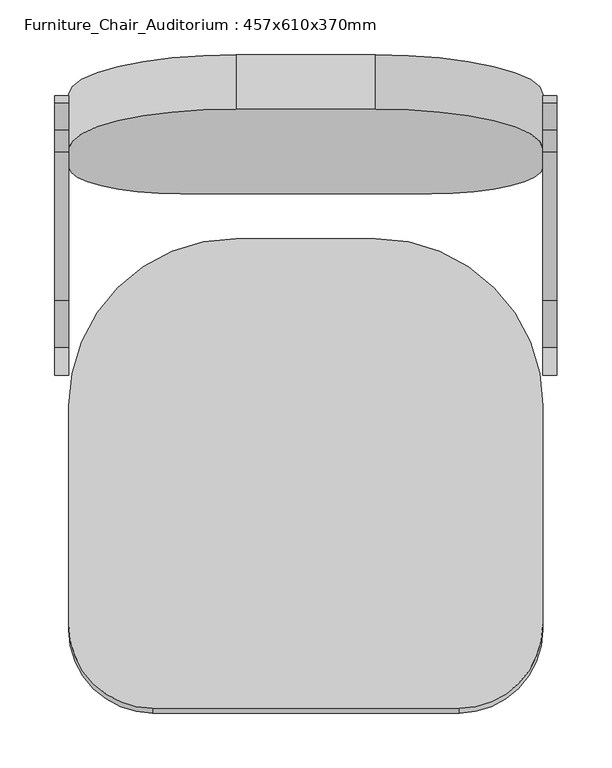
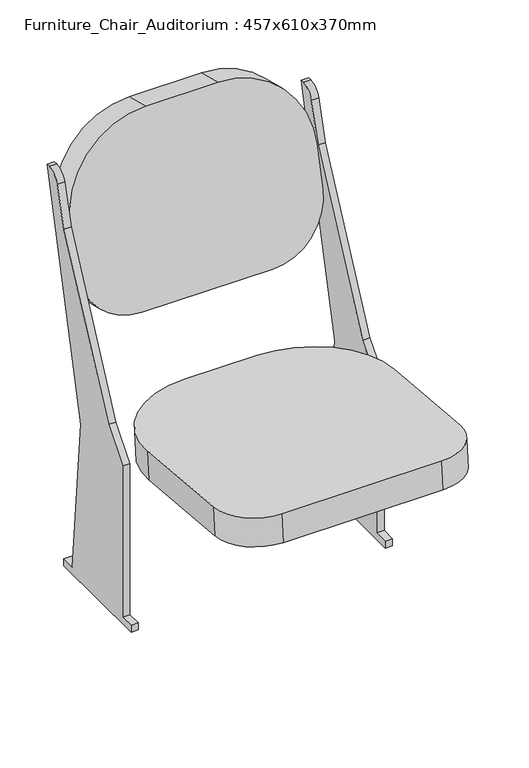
"""IFC4 building model written with IfcOpenShell, lengths in millimetres: furniture geometry, Furniture_Chair_Auditorium : 457x610x370mm."""

import ifcopenshell
import ifcopenshell.guid

model = None  # the IFC model being written
_history = None  # IfcOwnerHistory: only IFC2X3 demands one
_inside = {}  # id of a spatial element -> (the spatial element, [elements in it])
_under = {}  # id of a project, library or spatial element -> (it, [spatial elements below it])
_declared = {}  # id of a project -> (the project, [libraries it declares])
_typed = {}  # id of a type object -> (the type object, [elements of that type])
_made_of = {}  # id of a material, layer set ... -> (it, [elements and type objects made of it])


def new_model(schema):
    """Start an empty IFC model of exactly this schema.

    Asked for "IFC4X3", IfcOpenShell would pick the latest addendum, in which some entities
    have other attributes; the version numbers below select the first issue.
    IFC2X3 requires an IfcOwnerHistory on every rooted entity: one is made here for all.
    """
    global model, _history
    if schema == "IFC4X3":
        model = ifcopenshell.file(schema_version=(4, 3, 0, 0))
    else:
        model = ifcopenshell.file(schema=schema)
    _inside.clear()
    _under.clear()
    _declared.clear()
    _typed.clear()
    _made_of.clear()
    _history = None
    if model.schema == "IFC2X3":
        org = make("IfcOrganization", Name="unknown")
        user = make(
            "IfcPersonAndOrganization",
            ThePerson=make("IfcPerson", FamilyName="unknown"),
            TheOrganization=org,
        )
        app = make(
            "IfcApplication",
            ApplicationDeveloper=org,
            Version="unknown",
            ApplicationFullName="unknown",
            ApplicationIdentifier="unknown",
        )
        _history = make(
            "IfcOwnerHistory",
            OwningUser=user,
            OwningApplication=app,
            ChangeAction="ADDED",
            CreationDate=0,
        )
    return model


def make(cls, **values):
    """One entity of the class cls with the attributes given. An attribute that is None is left unset."""
    return model.create_entity(
        cls, **{name: value for name, value in values.items() if value is not None}
    )


def rooted(cls, **values):
    """An entity with a GlobalId (a new one), such as an element, a storey or a relation."""
    return make(cls, GlobalId=ifcopenshell.guid.new(), OwnerHistory=_history, **values)


def si_unit(unit_type, name, prefix=None):
    """IfcSIUnit, for example si_unit("LENGTHUNIT", "METRE", prefix="MILLI")."""
    return make("IfcSIUnit", UnitType=unit_type, Prefix=prefix, Name=name)


def assignment(units):
    """IfcUnitAssignment: the units of a project."""
    return None if units is None else make("IfcUnitAssignment", Units=units)


def point(xyz):
    """IfcCartesianPoint."""
    return None if xyz is None else make("IfcCartesianPoint", Coordinates=xyz)


def direction(xyz):
    """IfcDirection."""
    return None if xyz is None else make("IfcDirection", DirectionRatios=xyz)


def frame(location, z_axis=None, x_axis=None):
    """IfcAxis2Placement3D, a coordinate frame: its origin and axes. An axis left out is left unset."""
    return make(
        "IfcAxis2Placement3D",
        Location=point(location),
        Axis=direction(z_axis),
        RefDirection=direction(x_axis),
    )


def frame_2d(location, x_axis=None):
    """IfcAxis2Placement2D, a coordinate frame in the plane: its origin and x axis."""
    return make(
        "IfcAxis2Placement2D", Location=point(location), RefDirection=direction(x_axis)
    )


def origin():
    """The frame at (0, 0, 0) with its axes left unset."""
    return frame((0.0, 0.0, 0.0))


def place(relative_to, where):
    """IfcLocalPlacement: puts the frame where relative to a parent placement (None: the world)."""
    return make(
        "IfcLocalPlacement", PlacementRelTo=relative_to, RelativePlacement=where
    )


def context(
    kind, dimensions, precision=None, world=None, true_north=None, identifier=None
):
    """IfcGeometricRepresentationContext, for example the 3D "Model" context."""
    return make(
        "IfcGeometricRepresentationContext",
        ContextIdentifier=identifier,
        ContextType=kind,
        CoordinateSpaceDimension=dimensions,
        Precision=precision,
        WorldCoordinateSystem=world,
        TrueNorth=true_north,
    )


def project(units=None, contexts=None):
    """IfcProject with its units and contexts."""
    return rooted(
        "IfcProject",
        Name="project",
        RepresentationContexts=contexts,
        UnitsInContext=assignment(units),
    )


def spatial(cls, under=None, at=None, **own):
    """A site, building, storey or space (cls), placed at a placement, below another one or the project."""
    s = rooted(cls, ObjectPlacement=at, **own)
    if under is not None:
        _under.setdefault(under.id(), (under, []))[1].append(s)
    return s


def polyline(points):
    """IfcPolyline through the points."""
    return make("IfcPolyline", Points=[point(p) for p in points])


def circle_curve(where, radius):
    """IfcCircle in the frame where."""
    return make("IfcCircle", Position=where, Radius=radius)


def trimmed(basis, trim1, trim2, sense, master):
    """IfcTrimmedCurve: the piece of a basis curve between two trims."""
    return make(
        "IfcTrimmedCurve",
        BasisCurve=basis,
        Trim1=trim1,
        Trim2=trim2,
        SenseAgreement=sense,
        MasterRepresentation=master,
    )


def segment(curve, same_sense, transition):
    """IfcCompositeCurveSegment."""
    return make(
        "IfcCompositeCurveSegment",
        Transition=transition,
        SameSense=same_sense,
        ParentCurve=curve,
    )


def composite_curve(segments, self_intersect=None):
    """IfcCompositeCurve: segments joined end to end."""
    return make("IfcCompositeCurve", Segments=segments, SelfIntersect=self_intersect)


def outline(outer, holes=None, kind="AREA"):
    """IfcArbitraryClosedProfileDef: a profile drawn as a closed curve; with holes, ...WithVoids."""
    if holes is None:
        return make("IfcArbitraryClosedProfileDef", ProfileType=kind, OuterCurve=outer)
    return make(
        "IfcArbitraryProfileDefWithVoids",
        ProfileType=kind,
        OuterCurve=outer,
        InnerCurves=holes,
    )


def extrude(swept, where, along, depth):
    """IfcExtrudedAreaSolid: the profile swept, set in the frame where, extruded along a direction by depth."""
    return make(
        "IfcExtrudedAreaSolid",
        SweptArea=swept,
        Position=where,
        ExtrudedDirection=direction(along),
        Depth=depth,
    )


def shape(context_of_items, identifier, shape_type, items):
    """IfcShapeRepresentation: the items that make up one representation, for example the "Body"."""
    return make(
        "IfcShapeRepresentation",
        ContextOfItems=context_of_items,
        RepresentationIdentifier=identifier,
        RepresentationType=shape_type,
        Items=items,
    )


def source(mapping_origin, context_of_items, identifier, shape_type, items):
    """IfcRepresentationMap: a shape defined once, which mapped items show again and again."""
    return make(
        "IfcRepresentationMap",
        MappingOrigin=mapping_origin,
        MappedRepresentation=shape(context_of_items, identifier, shape_type, items),
    )


def transform(
    local_origin,
    x_axis=None,
    y_axis=None,
    z_axis=None,
    scale=None,
    scale2=None,
    scale3=None,
    uniform=True,
):
    """IfcCartesianTransformationOperator3D, or its non-uniform kind. x_axis, y_axis, z_axis: its Axis1, 2, 3."""
    if uniform:
        return make(
            "IfcCartesianTransformationOperator3D",
            Axis1=direction(x_axis),
            Axis2=direction(y_axis),
            LocalOrigin=point(local_origin),
            Scale=scale,
            Axis3=direction(z_axis),
        )
    return make(
        "IfcCartesianTransformationOperator3DnonUniform",
        Axis1=direction(x_axis),
        Axis2=direction(y_axis),
        LocalOrigin=point(local_origin),
        Scale=scale,
        Axis3=direction(z_axis),
        Scale2=scale2,
        Scale3=scale3,
    )


def mapped(mapping_source, mapping_target):
    """IfcMappedItem: shows the shape of a source again, moved by a transform."""
    return make(
        "IfcMappedItem", MappingSource=mapping_source, MappingTarget=mapping_target
    )


def made_of(thing, what):
    """Note that an element or type object is made of a material, layer set ...; save() writes the relation."""
    if what is not None:
        _made_of.setdefault(what.id(), (what, []))[1].append(thing)
    return thing


def element(
    cls,
    number,
    at=None,
    inside=None,
    cuts=None,
    type_object=None,
    material=None,
    context=None,
    identifier="Body",
    shape_type=None,
    held_by="IfcProductDefinitionShape",
    body=None,
    shapes=None,
    **own,
):
    """One element of the class cls, such as IfcWall. Its Tag is "e" and its number.

    at: its placement. inside: the storey or other place that contains it. cuts: it is an
    opening in that element (IfcRelVoidsElement). A single representation is given by context,
    identifier, shape_type and body (its items); several are given by shapes. held_by: the class
    of the entity that holds the representations. save() writes the other relations.
    """
    e = rooted(cls, Tag="e%d" % number, ObjectPlacement=at, **own)
    if body is not None:
        shapes = [shape(context, identifier, shape_type, body)]
    if shapes is not None:
        e.Representation = make(held_by, Representations=shapes)
    if inside is not None:
        _inside.setdefault(inside.id(), (inside, []))[1].append(e)
    if cuts is not None:
        rooted(
            "IfcRelVoidsElement", RelatingBuildingElement=cuts, RelatedOpeningElement=e
        )
    if type_object is not None:
        _typed.setdefault(type_object.id(), (type_object, []))[1].append(e)
    return made_of(e, material)


def aggregate(whole, parts):
    """IfcRelAggregates: a whole, such as a stair, and the parts it consists of."""
    return rooted("IfcRelAggregates", RelatingObject=whole, RelatedObjects=parts)


def save(model, path):
    """Write the relations noted so far, then the file.

    IfcRelAggregates (storeys below a building ...), IfcRelContainedInSpatialStructure (elements
    in a storey), IfcRelDefinesByType, IfcRelAssociatesMaterial and IfcRelDeclares: one each for
    every whole, place, type object, material and project.
    """
    for whole, parts in _under.values():
        aggregate(whole, parts)
    for where, things in _inside.values():
        rooted(
            "IfcRelContainedInSpatialStructure",
            RelatedElements=things,
            RelatingStructure=where,
        )
    for kind, things in _typed.values():
        rooted("IfcRelDefinesByType", RelatedObjects=things, RelatingType=kind)
    for what, things in _made_of.values():
        rooted("IfcRelAssociatesMaterial", RelatedObjects=things, RelatingMaterial=what)
    for by, libraries in _declared.values():
        rooted("IfcRelDeclares", RelatingContext=by, RelatedDefinitions=libraries)
    model.write(path)


def furniture_chair_auditorium_457x610x370mm_2ec127df(model_context):
    return source(origin(), model_context, "Body", "SweptSolid", [
        extrude(outline(composite_curve([segment(trimmed(circle_curve(frame_2d((0.0, 152.4)), 152.4), [point((0.0, 0.0))], [point((-152.4, 152.4))], False, "CARTESIAN"), True, "CONTINUOUS"), segment(polyline([(-152.4, 152.4), (-152.4, 224.0588601)]), True, "CONTINUOUS"), segment(trimmed(circle_curve(frame_2d((-50.8, 224.0588601)), 101.6), [point((-152.4, 224.0588601))], [point((-50.8, 325.6588601))], False, "CARTESIAN"), True, "CONTINUOUS"), segment(polyline([(-50.8, 325.6588601), (177.8, 325.6588601)]), True, "CONTINUOUS"), segment(trimmed(circle_curve(frame_2d((177.8, 224.0588601)), 101.6), [point((177.8, 325.6588601))], [point((279.4, 224.0588601))], False, "CARTESIAN"), True, "CONTINUOUS"), segment(polyline([(279.4, 224.0588601), (279.4, 152.4)]), True, "CONTINUOUS"), segment(trimmed(circle_curve(frame_2d((127.0, 152.4)), 152.4), [point((279.4, 152.4))], [point((127.0, 0.0))], False, "CARTESIAN"), True, "CONTINUOUS"), segment(polyline([(127.0, 0.0), (0.0, 0.0)]), True, "CONTINUOUS")], self_intersect=False)), frame((224.2278689, 101.3396919, 755.9484479), z_axis=(0.0, -0.9717404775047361, 0.23605178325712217), x_axis=(-1.0, 0.0, 0.0)), (0.0, 0.0, 1.0), 50.8),
        extrude(outline(composite_curve([segment(polyline([(0.0, 0.0), (-279.4, 0.0)]), True, "CONTINUOUS"), segment(trimmed(circle_curve(frame_2d((-279.4, 76.2)), 76.2), [point((-279.4, 0.0))], [point((-355.6, 76.2))], False, "CARTESIAN"), True, "CONTINUOUS"), segment(polyline([(-355.6, 76.2), (-355.6, 276.4123505)]), True, "CONTINUOUS"), segment(trimmed(circle_curve(frame_2d((-203.2, 276.4123505)), 152.4), [point((-355.6, 276.4123505))], [point((-203.2, 428.8123506))], False, "CARTESIAN"), True, "CONTINUOUS"), segment(polyline([(-203.2, 428.8123506), (-76.2, 428.8123506)]), True, "CONTINUOUS"), segment(trimmed(circle_curve(frame_2d((-76.2, 276.4123505)), 152.4), [point((-76.2, 428.8123506))], [point((76.2, 276.4123505))], False, "CARTESIAN"), True, "CONTINUOUS"), segment(polyline([(76.2, 276.4123505), (76.2, 76.2)]), True, "CONTINUOUS"), segment(trimmed(circle_curve(frame_2d((0.0, 76.2)), 76.2), [point((76.2, 76.2))], [point((0.0, 0.0))], False, "CARTESIAN"), True, "CONTINUOUS")], self_intersect=False)), frame((300.4278689, -497.5245173, 321.2380213), z_axis=(0.0, 0.08715574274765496, 0.9961946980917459), x_axis=(1.0, 0.0, 0.0)), (0.0, 0.0, 1.0), 50.8),
        extrude(outline(composite_curve([segment(polyline([(13.3245902, 0.0), (-189.8754098, 0.0), (-189.8754098, 12.7), (-164.4754098, 12.7), (-164.4754098, 292.1), (-121.8491486, 342.9), (13.3245902, 622.3), (33.4611378, 692.7779166)]), True, "CONTINUOUS"), segment(trimmed(circle_curve(frame_2d((57.883846, 685.8)), 25.4), [point((33.4611378, 692.7779166))], [point((57.883846, 711.2))], False, "CARTESIAN"), True, "CONTINUOUS"), segment(polyline([(57.883846, 711.2), (64.1245902, 711.2), (-37.4754098, 292.1), (-12.0754098, 12.7), (13.3245902, 12.7), (13.3245902, 0.0)]), True, "CONTINUOUS")], self_intersect=False)), frame((-67.8721311, 0.0, 0.0), z_axis=(1.0, 0.0, 0.0), x_axis=(0.0, 1.0, 0.0)), (0.0, 0.0, 1.0), 12.7),
        extrude(outline(composite_curve([segment(polyline([(13.3245902, 12.7), (13.3245902, 0.0), (-189.8754098, 0.0), (-189.8754098, 12.7), (-164.4754098, 12.7), (-164.4754098, 292.1), (-121.8491486, 342.9), (13.3245902, 622.3), (33.4611378, 692.7779166)]), True, "CONTINUOUS"), segment(trimmed(circle_curve(frame_2d((57.883846, 685.8)), 25.4), [point((33.4611378, 692.7779166))], [point((57.883846, 711.2))], False, "CARTESIAN"), True, "CONTINUOUS"), segment(polyline([(57.883846, 711.2), (64.1245902, 711.2), (-37.4754098, 292.1), (-12.0754098, 12.7), (13.3245902, 12.7)]), True, "CONTINUOUS")], self_intersect=False)), frame((376.6278689, 0.0, 0.0), z_axis=(1.0, 0.0, 0.0), x_axis=(0.0, 1.0, 0.0)), (0.0, 0.0, 1.0), 12.7),
    ])


if __name__ == "__main__":
    model = new_model("IFC4")
    model_context = context("Model", 3, world=origin())
    ifc_project = project(units=[si_unit("LENGTHUNIT", "METRE", prefix="MILLI")], contexts=[model_context])
    site = spatial("IfcSite", under=ifc_project)
    building = spatial("IfcBuilding", under=site)
    placement = place(None, origin())
    furniture_chair_auditorium_457x610x370mm_shape = furniture_chair_auditorium_457x610x370mm_2ec127df(model_context)
    element("IfcFurniture", 1, ObjectType="Furniture_Chair_Auditorium : 457x610x370mm", at=placement, inside=building, context=model_context, shape_type="MappedRepresentation", body=[
        mapped(furniture_chair_auditorium_457x610x370mm_shape, transform((0.0, 0.0, 0.0), x_axis=(1.0, 0.0, 0.0), y_axis=(0.0, 1.0, 0.0), z_axis=(0.0, 0.0, 1.0))),
    ])
    save(model, "model.ifc")
